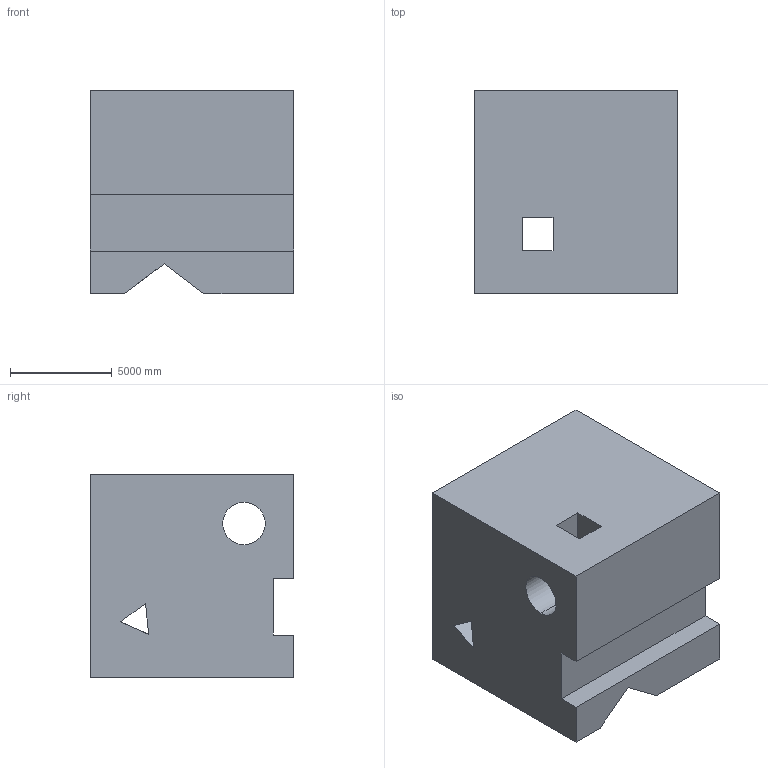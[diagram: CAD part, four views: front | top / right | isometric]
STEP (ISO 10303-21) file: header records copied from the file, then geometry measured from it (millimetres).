
FILE_DESCRIPTION (( 'STEP AP203' ), '1' );
FILE_NAME ('521.STEP', '2022-07-29T11:38:01', ( 'user' ), ( '' ), 'SwSTEP 2.0', 'SolidWorks 2021', '' );
FILE_SCHEMA (( 'CONFIG_CONTROL_DESIGN' ));
Length unit declared in the file: centimetre
Products named in the file (1): 521
Bounding box: 10000 x 10000 x 10000 mm (x, y, z)
Volume: 833681514959.5 mm3; surface area: 738638298.4 mm2
Topology: 1 solids, 1 shells, 27 faces, 87 edges, 58 vertices
Faces by surface type: plane 24, cylinder 3
Entity records: 1044 total; most frequent: ORIENTED_EDGE 174, CARTESIAN_POINT 173, DIRECTION 153, EDGE_CURVE 87, VECTOR 77, LINE 77, VERTEX_POINT 58, AXIS2_PLACEMENT_3D 38
